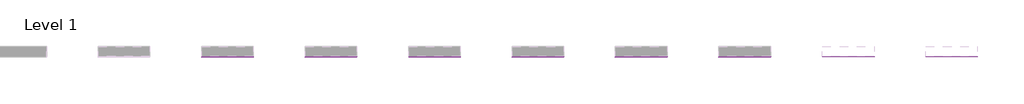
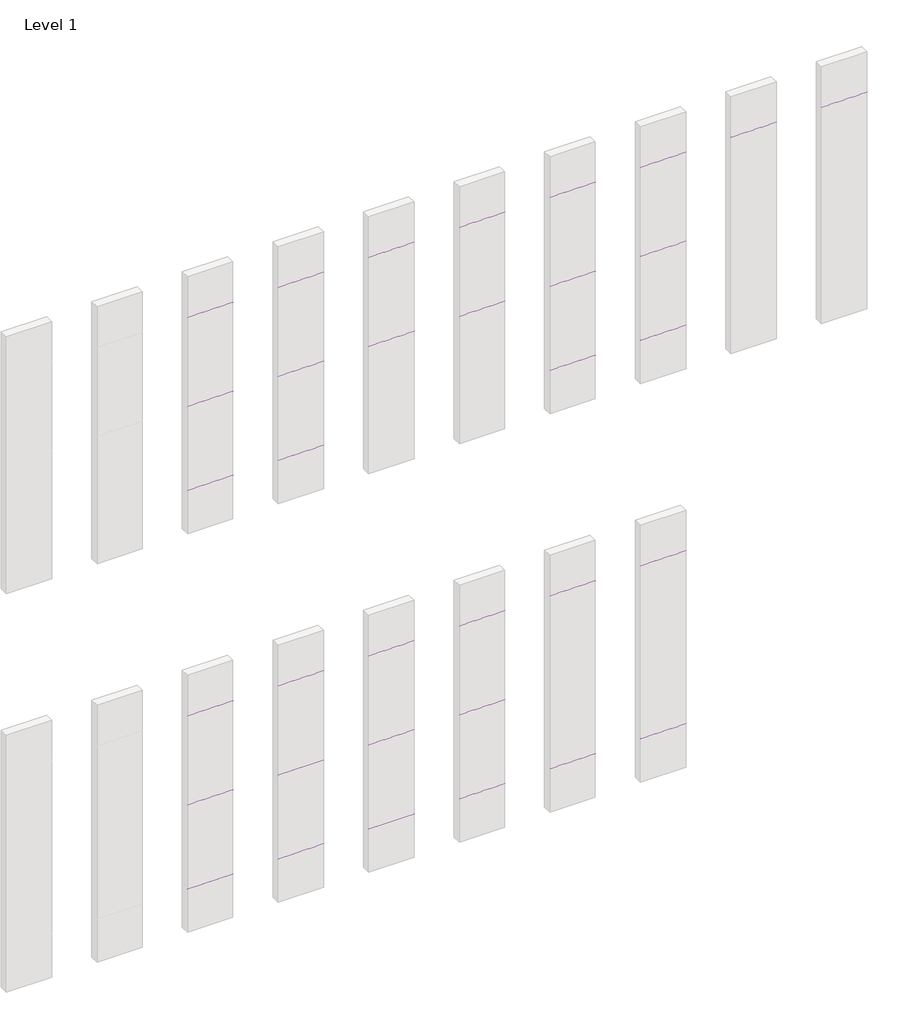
# One storey, part 2 of 2: 34 coverings.
"""IFC4 building model written with IfcOpenShell, lengths in millimetres."""

from ifc_helpers import new_model, si_unit, point, frame, frame_2d, origin, place, context, project, spatial, polyline, circle_curve, trimmed, segment, composite_curve, outline, extrude, element, save

model = new_model("IFC4")

# Units and contexts
model_context = context("Model", 3, world=origin())
ifc_project = project(units=[si_unit("LENGTHUNIT", "METRE", prefix="MILLI")], contexts=[model_context])

# Site, building, storey
site = spatial("IfcSite", under=ifc_project)
building = spatial("IfcBuilding", under=site)
storey = spatial("IfcBuildingStorey", under=building, Name="Level 1", Elevation=0.0)

# Coverings
placement = place(None, origin())
element("IfcCovering", 1, ObjectType="MARGRES-TIME 2.0-SKIRTING-8x120-NR-BLACK", at=placement, inside=storey, context=model_context, shape_type="SweptSolid", body=[
    extrude(outline(composite_curve([segment(polyline([(9.7350488, 10320.0), (-1.2649512, 10320.0), (-1.2649512, 10389.0)]), True, "CONTINUOUS"), segment(trimmed(circle_curve(frame_2d((9.7350488, 10389.0)), 11.0), [point((-1.2649512, 10389.0))], [point((9.7350488, 10400.0))], False, "CARTESIAN"), True, "CONTINUOUS"), segment(polyline([(9.7350488, 10400.0), (9.7350488, 10320.0)]), True, "CONTINUOUS")], self_intersect=False)), frame((6235.4501166, 0.0, 0.0), z_axis=(1.0, 0.0, 0.0), x_axis=(0.0, 1.0, 0.0)), (0.0, 0.0, 1.0), 1000.0),
])
element("IfcCovering", 2, ObjectType="MARGRES-TIME 2.0-SKIRTING-8x90-NR-BLACK", at=placement, inside=storey, context=model_context, shape_type="SweptSolid", body=[
    extrude(outline(composite_curve([segment(polyline([(9.7350488, 12280.0), (-1.2649512, 12280.0), (-1.2649512, 12349.0)]), True, "CONTINUOUS"), segment(trimmed(circle_curve(frame_2d((9.7350488, 12349.0)), 11.0), [point((-1.2649512, 12349.0))], [point((9.7350488, 12360.0))], False, "CARTESIAN"), True, "CONTINUOUS"), segment(polyline([(9.7350488, 12360.0), (9.7350488, 12280.0)]), True, "CONTINUOUS")], self_intersect=False)), frame((6235.4501166, 0.0, 0.0), z_axis=(1.0, 0.0, 0.0), x_axis=(0.0, 1.0, 0.0)), (0.0, 0.0, 1.0), 1000.0),
])
element("IfcCovering", 3, ObjectType="MARGRES-TIME 2.0-SKIRTING-8x60-NR-BLACK", at=placement, inside=storey, context=model_context, shape_type="SweptSolid", body=[
    extrude(outline(composite_curve([segment(polyline([(9.7350488, 14360.0), (-0.2649512, 14360.0), (-0.2649512, 14430.0)]), True, "CONTINUOUS"), segment(trimmed(circle_curve(frame_2d((9.7350488, 14430.0)), 10.0), [point((-0.2649512, 14430.0))], [point((9.7350488, 14440.0))], False, "CARTESIAN"), True, "CONTINUOUS"), segment(polyline([(9.7350488, 14440.0), (9.7350488, 14360.0)]), True, "CONTINUOUS")], self_intersect=False)), frame((6235.4501166, 0.0, 0.0), z_axis=(1.0, 0.0, 0.0), x_axis=(0.0, 1.0, 0.0)), (0.0, 0.0, 1.0), 1000.0),
])
element("IfcCovering", 4, ObjectType="MARGRES-TIME 2.0-SKIRTING-8x120-P-BLACK", at=placement, inside=storey, context=model_context, shape_type="SweptSolid", body=[
    extrude(outline(composite_curve([segment(polyline([(9.7350488, 10320.0), (-0.7649512, 10320.0), (-0.7649512, 10389.5)]), True, "CONTINUOUS"), segment(trimmed(circle_curve(frame_2d((9.7350488, 10389.5)), 10.5), [point((-0.7649512, 10389.5))], [point((9.7350488, 10400.0))], False, "CARTESIAN"), True, "CONTINUOUS"), segment(polyline([(9.7350488, 10400.0), (9.7350488, 10320.0)]), True, "CONTINUOUS")], self_intersect=False)), frame((8235.4501166, 0.0, 0.0), z_axis=(1.0, 0.0, 0.0), x_axis=(0.0, 1.0, 0.0)), (0.0, 0.0, 1.0), 1000.0),
])
element("IfcCovering", 5, ObjectType="MARGRES-TIME 2.0-SKIRTING-8x90-P-BLACK", at=placement, inside=storey, context=model_context, shape_type="SweptSolid", body=[
    extrude(outline(composite_curve([segment(polyline([(9.7350488, 12280.0), (-0.7649512, 12280.0), (-0.7649512, 12349.5)]), True, "CONTINUOUS"), segment(trimmed(circle_curve(frame_2d((9.7350488, 12349.5)), 10.5), [point((-0.7649512, 12349.5))], [point((9.7350488, 12360.0))], False, "CARTESIAN"), True, "CONTINUOUS"), segment(polyline([(9.7350488, 12360.0), (9.7350488, 12280.0)]), True, "CONTINUOUS")], self_intersect=False)), frame((8235.4501166, 0.0, 0.0), z_axis=(1.0, 0.0, 0.0), x_axis=(0.0, 1.0, 0.0)), (0.0, 0.0, 1.0), 1000.0),
])
element("IfcCovering", 6, ObjectType="MARGRES-TIME 2.0-SKIRTING-8x60-P-BLACK", at=placement, inside=storey, context=model_context, shape_type="SweptSolid", body=[
    extrude(outline(composite_curve([segment(polyline([(9.7350488, 14360.0), (0.2350488, 14360.0), (0.2350488, 14430.5)]), True, "CONTINUOUS"), segment(trimmed(circle_curve(frame_2d((9.7350488, 14430.5)), 9.5), [point((0.2350488, 14430.5))], [point((9.7350488, 14440.0))], False, "CARTESIAN"), True, "CONTINUOUS"), segment(polyline([(9.7350488, 14440.0), (9.7350488, 14360.0)]), True, "CONTINUOUS")], self_intersect=False)), frame((8235.4501166, 0.0, 0.0), z_axis=(1.0, 0.0, 0.0), x_axis=(0.0, 1.0, 0.0)), (0.0, 0.0, 1.0), 1000.0),
])
element("IfcCovering", 7, ObjectType="MARGRES-TIME 2.0-SKIRTING-8x90-NR-CARBON", at=placement, inside=storey, context=model_context, shape_type="SweptSolid", body=[
    extrude(outline(composite_curve([segment(polyline([(9.7350488, 12280.0), (-1.2649512, 12280.0), (-1.2649512, 12349.0)]), True, "CONTINUOUS"), segment(trimmed(circle_curve(frame_2d((9.7350488, 12349.0)), 11.0), [point((-1.2649512, 12349.0))], [point((9.7350488, 12360.0))], False, "CARTESIAN"), True, "CONTINUOUS"), segment(polyline([(9.7350488, 12360.0), (9.7350488, 12280.0)]), True, "CONTINUOUS")], self_intersect=False)), frame((10235.4501166, 0.0, 0.0), z_axis=(1.0, 0.0, 0.0), x_axis=(0.0, 1.0, 0.0)), (0.0, 0.0, 1.0), 1000.0),
])
element("IfcCovering", 8, ObjectType="MARGRES-TIME 2.0-SKIRTING-8x60-NR-CARBON", at=placement, inside=storey, context=model_context, shape_type="SweptSolid", body=[
    extrude(outline(composite_curve([segment(polyline([(9.7350488, 14360.0), (-0.2649512, 14360.0), (-0.2649512, 14430.0)]), True, "CONTINUOUS"), segment(trimmed(circle_curve(frame_2d((9.7350488, 14430.0)), 10.0), [point((-0.2649512, 14430.0))], [point((9.7350488, 14440.0))], False, "CARTESIAN"), True, "CONTINUOUS"), segment(polyline([(9.7350488, 14440.0), (9.7350488, 14360.0)]), True, "CONTINUOUS")], self_intersect=False)), frame((10235.4501166, 0.0, 0.0), z_axis=(1.0, 0.0, 0.0), x_axis=(0.0, 1.0, 0.0)), (0.0, 0.0, 1.0), 1000.0),
])
element("IfcCovering", 9, ObjectType="MARGRES-TIME 2.0-SKIRTING-8x90-P-CARBON", at=placement, inside=storey, context=model_context, shape_type="SweptSolid", body=[
    extrude(outline(composite_curve([segment(polyline([(9.7350488, 12280.0), (-0.7649512, 12280.0), (-0.7649512, 12349.5)]), True, "CONTINUOUS"), segment(trimmed(circle_curve(frame_2d((9.7350488, 12349.5)), 10.5), [point((-0.7649512, 12349.5))], [point((9.7350488, 12360.0))], False, "CARTESIAN"), True, "CONTINUOUS"), segment(polyline([(9.7350488, 12360.0), (9.7350488, 12280.0)]), True, "CONTINUOUS")], self_intersect=False)), frame((12235.4501166, 0.0, 0.0), z_axis=(1.0, 0.0, 0.0), x_axis=(0.0, 1.0, 0.0)), (0.0, 0.0, 1.0), 1000.0),
])
element("IfcCovering", 10, ObjectType="MARGRES-TIME 2.0-SKIRTING-8x60-P-CARBON", at=placement, inside=storey, context=model_context, shape_type="SweptSolid", body=[
    extrude(outline(composite_curve([segment(polyline([(9.7350488, 14360.0), (0.2350488, 14360.0), (0.2350488, 14430.5)]), True, "CONTINUOUS"), segment(trimmed(circle_curve(frame_2d((9.7350488, 14430.5)), 9.5), [point((0.2350488, 14430.5))], [point((9.7350488, 14440.0))], False, "CARTESIAN"), True, "CONTINUOUS"), segment(polyline([(9.7350488, 14440.0), (9.7350488, 14360.0)]), True, "CONTINUOUS")], self_intersect=False)), frame((12235.4501166, 0.0, 0.0), z_axis=(1.0, 0.0, 0.0), x_axis=(0.0, 1.0, 0.0)), (0.0, 0.0, 1.0), 1000.0),
])
element("IfcCovering", 11, ObjectType="MARGRES-TIME 2.0-SKIRTING-8x120-NR-CREAM", at=placement, inside=storey, context=model_context, shape_type="SweptSolid", body=[
    extrude(outline(composite_curve([segment(polyline([(9.7350488, 10320.0), (-1.2649512, 10320.0), (-1.2649512, 10389.0)]), True, "CONTINUOUS"), segment(trimmed(circle_curve(frame_2d((9.7350488, 10389.0)), 11.0), [point((-1.2649512, 10389.0))], [point((9.7350488, 10400.0))], False, "CARTESIAN"), True, "CONTINUOUS"), segment(polyline([(9.7350488, 10400.0), (9.7350488, 10320.0)]), True, "CONTINUOUS")], self_intersect=False)), frame((14235.4501166, 0.0, 0.0), z_axis=(1.0, 0.0, 0.0), x_axis=(0.0, 1.0, 0.0)), (0.0, 0.0, 1.0), 1000.0),
])
element("IfcCovering", 12, ObjectType="MARGRES-TIME 2.0-SKIRTING-8x90-NR-CREAM", at=placement, inside=storey, context=model_context, shape_type="SweptSolid", body=[
    extrude(outline(composite_curve([segment(polyline([(9.7350488, 12280.0), (0.2350488, 12280.0), (0.2350488, 12350.5)]), True, "CONTINUOUS"), segment(trimmed(circle_curve(frame_2d((9.7350488, 12350.5)), 9.5), [point((0.2350488, 12350.5))], [point((9.7350488, 12360.0))], False, "CARTESIAN"), True, "CONTINUOUS"), segment(polyline([(9.7350488, 12360.0), (9.7350488, 12280.0)]), True, "CONTINUOUS")], self_intersect=False)), frame((14235.4501166, 0.0, 0.0), z_axis=(1.0, 0.0, 0.0), x_axis=(0.0, 1.0, 0.0)), (0.0, 0.0, 1.0), 1000.0),
])
element("IfcCovering", 13, ObjectType="MARGRES-TIME 2.0-SKIRTING-8x60-NR-CREAM", at=placement, inside=storey, context=model_context, shape_type="SweptSolid", body=[
    extrude(outline(composite_curve([segment(polyline([(9.7350488, 14360.0), (-0.2649512, 14360.0), (-0.2649512, 14430.0)]), True, "CONTINUOUS"), segment(trimmed(circle_curve(frame_2d((9.7350488, 14430.0)), 10.0), [point((-0.2649512, 14430.0))], [point((9.7350488, 14440.0))], False, "CARTESIAN"), True, "CONTINUOUS"), segment(polyline([(9.7350488, 14440.0), (9.7350488, 14360.0)]), True, "CONTINUOUS")], self_intersect=False)), frame((14235.4501166, 0.0, 0.0), z_axis=(1.0, 0.0, 0.0), x_axis=(0.0, 1.0, 0.0)), (0.0, 0.0, 1.0), 1000.0),
])
element("IfcCovering", 14, ObjectType="MARGRES-TIME 2.0-SKIRTING-8x120-P-CREAM", at=placement, inside=storey, context=model_context, shape_type="SweptSolid", body=[
    extrude(outline(composite_curve([segment(polyline([(9.7350488, 10320.0), (-0.7649512, 10320.0), (-0.7649512, 10389.5)]), True, "CONTINUOUS"), segment(trimmed(circle_curve(frame_2d((9.7350488, 10389.5)), 10.5), [point((-0.7649512, 10389.5))], [point((9.7350488, 10400.0))], False, "CARTESIAN"), True, "CONTINUOUS"), segment(polyline([(9.7350488, 10400.0), (9.7350488, 10320.0)]), True, "CONTINUOUS")], self_intersect=False)), frame((16235.4501166, 0.0, 0.0), z_axis=(1.0, 0.0, 0.0), x_axis=(0.0, 1.0, 0.0)), (0.0, 0.0, 1.0), 1000.0),
])
element("IfcCovering", 15, ObjectType="MARGRES-TIME 2.0-SKIRTING-8x90-P-CREAM", at=placement, inside=storey, context=model_context, shape_type="SweptSolid", body=[
    extrude(outline(composite_curve([segment(polyline([(9.7350488, 12280.0), (-0.7649512, 12280.0), (-0.7649512, 12349.5)]), True, "CONTINUOUS"), segment(trimmed(circle_curve(frame_2d((9.7350488, 12349.5)), 10.5), [point((-0.7649512, 12349.5))], [point((9.7350488, 12360.0))], False, "CARTESIAN"), True, "CONTINUOUS"), segment(polyline([(9.7350488, 12360.0), (9.7350488, 12280.0)]), True, "CONTINUOUS")], self_intersect=False)), frame((16235.4501166, 0.0, 0.0), z_axis=(1.0, 0.0, 0.0), x_axis=(0.0, 1.0, 0.0)), (0.0, 0.0, 1.0), 1000.0),
])
element("IfcCovering", 16, ObjectType="MARGRES-TIME 2.0-SKIRTING-8x60-P-CREAM", at=placement, inside=storey, context=model_context, shape_type="SweptSolid", body=[
    extrude(outline(composite_curve([segment(polyline([(9.7350488, 14360.0), (0.2350488, 14360.0), (0.2350488, 14430.5)]), True, "CONTINUOUS"), segment(trimmed(circle_curve(frame_2d((9.7350488, 14430.5)), 9.5), [point((0.2350488, 14430.5))], [point((9.7350488, 14440.0))], False, "CARTESIAN"), True, "CONTINUOUS"), segment(polyline([(9.7350488, 14440.0), (9.7350488, 14360.0)]), True, "CONTINUOUS")], self_intersect=False)), frame((16235.4501166, 0.0, 0.0), z_axis=(1.0, 0.0, 0.0), x_axis=(0.0, 1.0, 0.0)), (0.0, 0.0, 1.0), 1000.0),
])
element("IfcCovering", 17, ObjectType="MARGRES-TIME 2.0-SKIRTING-8x60-NR-DOVE", at=placement, inside=storey, context=model_context, shape_type="SweptSolid", body=[
    extrude(outline(composite_curve([segment(polyline([(9.7350488, 14360.0), (-0.2649512, 14360.0), (-0.2649512, 14430.0)]), True, "CONTINUOUS"), segment(trimmed(circle_curve(frame_2d((9.7350488, 14430.0)), 10.0), [point((-0.2649512, 14430.0))], [point((9.7350488, 14440.0))], False, "CARTESIAN"), True, "CONTINUOUS"), segment(polyline([(9.7350488, 14440.0), (9.7350488, 14360.0)]), True, "CONTINUOUS")], self_intersect=False)), frame((18235.4501166, 0.0, 0.0), z_axis=(1.0, 0.0, 0.0), x_axis=(0.0, 1.0, 0.0)), (0.0, 0.0, 1.0), 1000.0),
])
element("IfcCovering", 18, ObjectType="MARGRES-TIME 2.0-SKIRTING-8x60-P-DOVE", at=placement, inside=storey, context=model_context, shape_type="SweptSolid", body=[
    extrude(outline(composite_curve([segment(polyline([(9.7350488, 14360.0), (0.2350488, 14360.0), (0.2350488, 14430.5)]), True, "CONTINUOUS"), segment(trimmed(circle_curve(frame_2d((9.7350488, 14430.5)), 9.5), [point((0.2350488, 14430.5))], [point((9.7350488, 14440.0))], False, "CARTESIAN"), True, "CONTINUOUS"), segment(polyline([(9.7350488, 14440.0), (9.7350488, 14360.0)]), True, "CONTINUOUS")], self_intersect=False)), frame((20235.4501166, 0.0, 0.0), z_axis=(1.0, 0.0, 0.0), x_axis=(0.0, 1.0, 0.0)), (0.0, 0.0, 1.0), 1000.0),
])
element("IfcCovering", 19, ObjectType="MARGRES-TIME 2.0-SKIRTING-8x120-NR-SILVER", at=placement, inside=storey, context=model_context, shape_type="SweptSolid", body=[
    extrude(outline(composite_curve([segment(polyline([(9.7350488, 1020.0), (-1.2649512, 1020.0), (-1.2649512, 1089.0)]), True, "CONTINUOUS"), segment(trimmed(circle_curve(frame_2d((9.7350488, 1089.0)), 11.0), [point((-1.2649512, 1089.0))], [point((9.7350488, 1100.0))], False, "CARTESIAN"), True, "CONTINUOUS"), segment(polyline([(9.7350488, 1100.0), (9.7350488, 1020.0)]), True, "CONTINUOUS")], self_intersect=False)), frame((6235.4501166, 0.0, 0.0), z_axis=(1.0, 0.0, 0.0), x_axis=(0.0, 1.0, 0.0)), (0.0, 0.0, 1.0), 1000.0),
])
element("IfcCovering", 20, ObjectType="MARGRES-TIME 2.0-SKIRTING-8x90-NR-SILVER", at=placement, inside=storey, context=model_context, shape_type="SweptSolid", body=[
    extrude(outline(composite_curve([segment(polyline([(9.7350488, 2980.0), (0.2350488, 2980.0), (0.2350488, 3050.5)]), True, "CONTINUOUS"), segment(trimmed(circle_curve(frame_2d((9.7350488, 3050.5)), 9.5), [point((0.2350488, 3050.5))], [point((9.7350488, 3060.0))], False, "CARTESIAN"), True, "CONTINUOUS"), segment(polyline([(9.7350488, 3060.0), (9.7350488, 2980.0)]), True, "CONTINUOUS")], self_intersect=False)), frame((6235.4501166, 0.0, 0.0), z_axis=(1.0, 0.0, 0.0), x_axis=(0.0, 1.0, 0.0)), (0.0, 0.0, 1.0), 1000.0),
])
element("IfcCovering", 21, ObjectType="MARGRES-TIME 2.0-SKIRTING-8x60-NR-SILVER", at=placement, inside=storey, context=model_context, shape_type="SweptSolid", body=[
    extrude(outline(composite_curve([segment(polyline([(9.7350488, 5060.0), (-0.2649512, 5060.0), (-0.2649512, 5130.0)]), True, "CONTINUOUS"), segment(trimmed(circle_curve(frame_2d((9.7350488, 5130.0)), 10.0), [point((-0.2649512, 5130.0))], [point((9.7350488, 5140.0))], False, "CARTESIAN"), True, "CONTINUOUS"), segment(polyline([(9.7350488, 5140.0), (9.7350488, 5060.0)]), True, "CONTINUOUS")], self_intersect=False)), frame((6235.4501166, 0.0, 0.0), z_axis=(1.0, 0.0, 0.0), x_axis=(0.0, 1.0, 0.0)), (0.0, 0.0, 1.0), 1000.0),
])
element("IfcCovering", 22, ObjectType="MARGRES-TIME 2.0-SKIRTING-8x120-P-SILVER", at=placement, inside=storey, context=model_context, shape_type="SweptSolid", body=[
    extrude(outline(composite_curve([segment(polyline([(9.7350488, 1020.0), (-0.7649512, 1020.0), (-0.7649512, 1089.5)]), True, "CONTINUOUS"), segment(trimmed(circle_curve(frame_2d((9.7350488, 1089.5)), 10.5), [point((-0.7649512, 1089.5))], [point((9.7350488, 1100.0))], False, "CARTESIAN"), True, "CONTINUOUS"), segment(polyline([(9.7350488, 1100.0), (9.7350488, 1020.0)]), True, "CONTINUOUS")], self_intersect=False)), frame((8235.4501166, 0.0, 0.0), z_axis=(1.0, 0.0, 0.0), x_axis=(0.0, 1.0, 0.0)), (0.0, 0.0, 1.0), 1000.0),
])
element("IfcCovering", 23, ObjectType="MARGRES-TIME 2.0-SKIRTING-8x90-P-SILVER", at=placement, inside=storey, context=model_context, shape_type="SweptSolid", body=[
    extrude(outline(composite_curve([segment(polyline([(9.7350488, 2980.0), (-0.7649512, 2980.0), (-0.7649512, 3049.5)]), True, "CONTINUOUS"), segment(trimmed(circle_curve(frame_2d((9.7350488, 3049.5)), 10.5), [point((-0.7649512, 3049.5))], [point((9.7350488, 3060.0))], False, "CARTESIAN"), True, "CONTINUOUS"), segment(polyline([(9.7350488, 3060.0), (9.7350488, 2980.0)]), True, "CONTINUOUS")], self_intersect=False)), frame((8235.4501166, 0.0, 0.0), z_axis=(1.0, 0.0, 0.0), x_axis=(0.0, 1.0, 0.0)), (0.0, 0.0, 1.0), 1000.0),
])
element("IfcCovering", 24, ObjectType="MARGRES-TIME 2.0-SKIRTING-8x60-P-SILVER", at=placement, inside=storey, context=model_context, shape_type="SweptSolid", body=[
    extrude(outline(composite_curve([segment(polyline([(9.7350488, 5060.0), (0.2350488, 5060.0), (0.2350488, 5130.5)]), True, "CONTINUOUS"), segment(trimmed(circle_curve(frame_2d((9.7350488, 5130.5)), 9.5), [point((0.2350488, 5130.5))], [point((9.7350488, 5140.0))], False, "CARTESIAN"), True, "CONTINUOUS"), segment(polyline([(9.7350488, 5140.0), (9.7350488, 5060.0)]), True, "CONTINUOUS")], self_intersect=False)), frame((8235.4501166, 0.0, 0.0), z_axis=(1.0, 0.0, 0.0), x_axis=(0.0, 1.0, 0.0)), (0.0, 0.0, 1.0), 1000.0),
])
element("IfcCovering", 25, ObjectType="MARGRES-TIME 2.0-SKIRTING-8x120-NR-SNOW", at=placement, inside=storey, context=model_context, shape_type="SweptSolid", body=[
    extrude(outline(composite_curve([segment(polyline([(9.7350488, 1020.0), (-1.2649512, 1020.0), (-1.2649512, 1089.0)]), True, "CONTINUOUS"), segment(trimmed(circle_curve(frame_2d((9.7350488, 1089.0)), 11.0), [point((-1.2649512, 1089.0))], [point((9.7350488, 1100.0))], False, "CARTESIAN"), True, "CONTINUOUS"), segment(polyline([(9.7350488, 1100.0), (9.7350488, 1020.0)]), True, "CONTINUOUS")], self_intersect=False)), frame((10235.4501166, 0.0, 0.0), z_axis=(1.0, 0.0, 0.0), x_axis=(0.0, 1.0, 0.0)), (0.0, 0.0, 1.0), 1000.0),
])
element("IfcCovering", 26, ObjectType="MARGRES-TIME 2.0-SKIRTING-8x90-NR-SNOW", at=placement, inside=storey, context=model_context, shape_type="SweptSolid", body=[
    extrude(outline(composite_curve([segment(polyline([(9.7350488, 2980.0), (0.2350488, 2980.0), (0.2350488, 3050.5)]), True, "CONTINUOUS"), segment(trimmed(circle_curve(frame_2d((9.7350488, 3050.5)), 9.5), [point((0.2350488, 3050.5))], [point((9.7350488, 3060.0))], False, "CARTESIAN"), True, "CONTINUOUS"), segment(polyline([(9.7350488, 3060.0), (9.7350488, 2980.0)]), True, "CONTINUOUS")], self_intersect=False)), frame((10235.4501166, 0.0, 0.0), z_axis=(1.0, 0.0, 0.0), x_axis=(0.0, 1.0, 0.0)), (0.0, 0.0, 1.0), 1000.0),
])
element("IfcCovering", 27, ObjectType="MARGRES-TIME 2.0-SKIRTING-8x60-NR-SNOW", at=placement, inside=storey, context=model_context, shape_type="SweptSolid", body=[
    extrude(outline(composite_curve([segment(polyline([(9.7350488, 5060.0), (-0.2649512, 5060.0), (-0.2649512, 5130.0)]), True, "CONTINUOUS"), segment(trimmed(circle_curve(frame_2d((9.7350488, 5130.0)), 10.0), [point((-0.2649512, 5130.0))], [point((9.7350488, 5140.0))], False, "CARTESIAN"), True, "CONTINUOUS"), segment(polyline([(9.7350488, 5140.0), (9.7350488, 5060.0)]), True, "CONTINUOUS")], self_intersect=False)), frame((10235.4501166, 0.0, 0.0), z_axis=(1.0, 0.0, 0.0), x_axis=(0.0, 1.0, 0.0)), (0.0, 0.0, 1.0), 1000.0),
])
element("IfcCovering", 28, ObjectType="MARGRES-TIME 2.0-SKIRTING-8x120-P-SNOW", at=placement, inside=storey, context=model_context, shape_type="SweptSolid", body=[
    extrude(outline(composite_curve([segment(polyline([(9.7350488, 1020.0), (-0.7649512, 1020.0), (-0.7649512, 1089.5)]), True, "CONTINUOUS"), segment(trimmed(circle_curve(frame_2d((9.7350488, 1089.5)), 10.5), [point((-0.7649512, 1089.5))], [point((9.7350488, 1100.0))], False, "CARTESIAN"), True, "CONTINUOUS"), segment(polyline([(9.7350488, 1100.0), (9.7350488, 1020.0)]), True, "CONTINUOUS")], self_intersect=False)), frame((12235.4501166, 0.0, 0.0), z_axis=(1.0, 0.0, 0.0), x_axis=(0.0, 1.0, 0.0)), (0.0, 0.0, 1.0), 1000.0),
])
element("IfcCovering", 29, ObjectType="MARGRES-TIME 2.0-SKIRTING-8x90-P-SNOW", at=placement, inside=storey, context=model_context, shape_type="SweptSolid", body=[
    extrude(outline(composite_curve([segment(polyline([(9.7350488, 2980.0), (-0.7649512, 2980.0), (-0.7649512, 3049.5)]), True, "CONTINUOUS"), segment(trimmed(circle_curve(frame_2d((9.7350488, 3049.5)), 10.5), [point((-0.7649512, 3049.5))], [point((9.7350488, 3060.0))], False, "CARTESIAN"), True, "CONTINUOUS"), segment(polyline([(9.7350488, 3060.0), (9.7350488, 2980.0)]), True, "CONTINUOUS")], self_intersect=False)), frame((12235.4501166, 0.0, 0.0), z_axis=(1.0, 0.0, 0.0), x_axis=(0.0, 1.0, 0.0)), (0.0, 0.0, 1.0), 1000.0),
])
element("IfcCovering", 30, ObjectType="MARGRES-TIME 2.0-SKIRTING-8x60-P-SNOW", at=placement, inside=storey, context=model_context, shape_type="SweptSolid", body=[
    extrude(outline(composite_curve([segment(polyline([(9.7350488, 5060.0), (0.2350488, 5060.0), (0.2350488, 5130.5)]), True, "CONTINUOUS"), segment(trimmed(circle_curve(frame_2d((9.7350488, 5130.5)), 9.5), [point((0.2350488, 5130.5))], [point((9.7350488, 5140.0))], False, "CARTESIAN"), True, "CONTINUOUS"), segment(polyline([(9.7350488, 5140.0), (9.7350488, 5060.0)]), True, "CONTINUOUS")], self_intersect=False)), frame((12235.4501166, 0.0, 0.0), z_axis=(1.0, 0.0, 0.0), x_axis=(0.0, 1.0, 0.0)), (0.0, 0.0, 1.0), 1000.0),
])
element("IfcCovering", 31, ObjectType="MARGRES-TIME 2.0-SKIRTING-8x120-NR-WHITE", at=placement, inside=storey, context=model_context, shape_type="SweptSolid", body=[
    extrude(outline(composite_curve([segment(polyline([(9.7350488, 1020.0), (0.2350488, 1020.0), (0.2350488, 1090.5)]), True, "CONTINUOUS"), segment(trimmed(circle_curve(frame_2d((9.7350488, 1090.5)), 9.5), [point((0.2350488, 1090.5))], [point((9.7350488, 1100.0))], False, "CARTESIAN"), True, "CONTINUOUS"), segment(polyline([(9.7350488, 1100.0), (9.7350488, 1020.0)]), True, "CONTINUOUS")], self_intersect=False)), frame((14235.4501166, 0.0, 0.0), z_axis=(1.0, 0.0, 0.0), x_axis=(0.0, 1.0, 0.0)), (0.0, 0.0, 1.0), 1000.0),
])
element("IfcCovering", 32, ObjectType="MARGRES-TIME 2.0-SKIRTING-8x60-NR-WHITE", at=placement, inside=storey, context=model_context, shape_type="SweptSolid", body=[
    extrude(outline(composite_curve([segment(polyline([(9.7350488, 5060.0), (-0.2649512, 5060.0), (-0.2649512, 5130.0)]), True, "CONTINUOUS"), segment(trimmed(circle_curve(frame_2d((9.7350488, 5130.0)), 10.0), [point((-0.2649512, 5130.0))], [point((9.7350488, 5140.0))], False, "CARTESIAN"), True, "CONTINUOUS"), segment(polyline([(9.7350488, 5140.0), (9.7350488, 5060.0)]), True, "CONTINUOUS")], self_intersect=False)), frame((14235.4501166, 0.0, 0.0), z_axis=(1.0, 0.0, 0.0), x_axis=(0.0, 1.0, 0.0)), (0.0, 0.0, 1.0), 1000.0),
])
element("IfcCovering", 33, ObjectType="MARGRES-TIME 2.0-SKIRTING-8x120-P-WHITE", at=placement, inside=storey, context=model_context, shape_type="SweptSolid", body=[
    extrude(outline(composite_curve([segment(polyline([(9.7350488, 1020.0), (-0.7649512, 1020.0), (-0.7649512, 1089.5)]), True, "CONTINUOUS"), segment(trimmed(circle_curve(frame_2d((9.7350488, 1089.5)), 10.5), [point((-0.7649512, 1089.5))], [point((9.7350488, 1100.0))], False, "CARTESIAN"), True, "CONTINUOUS"), segment(polyline([(9.7350488, 1100.0), (9.7350488, 1020.0)]), True, "CONTINUOUS")], self_intersect=False)), frame((16235.4501166, 0.0, 0.0), z_axis=(1.0, 0.0, 0.0), x_axis=(0.0, 1.0, 0.0)), (0.0, 0.0, 1.0), 1000.0),
])
element("IfcCovering", 34, ObjectType="MARGRES-TIME 2.0-SKIRTING-8x60-P-WHITE", at=placement, inside=storey, context=model_context, shape_type="SweptSolid", body=[
    extrude(outline(composite_curve([segment(polyline([(9.7350488, 5060.0), (0.2350488, 5060.0), (0.2350488, 5130.5)]), True, "CONTINUOUS"), segment(trimmed(circle_curve(frame_2d((9.7350488, 5130.5)), 9.5), [point((0.2350488, 5130.5))], [point((9.7350488, 5140.0))], False, "CARTESIAN"), True, "CONTINUOUS"), segment(polyline([(9.7350488, 5140.0), (9.7350488, 5060.0)]), True, "CONTINUOUS")], self_intersect=False)), frame((16235.4501166, 0.0, 0.0), z_axis=(1.0, 0.0, 0.0), x_axis=(0.0, 1.0, 0.0)), (0.0, 0.0, 1.0), 1000.0),
])

save(model, "model.ifc")
